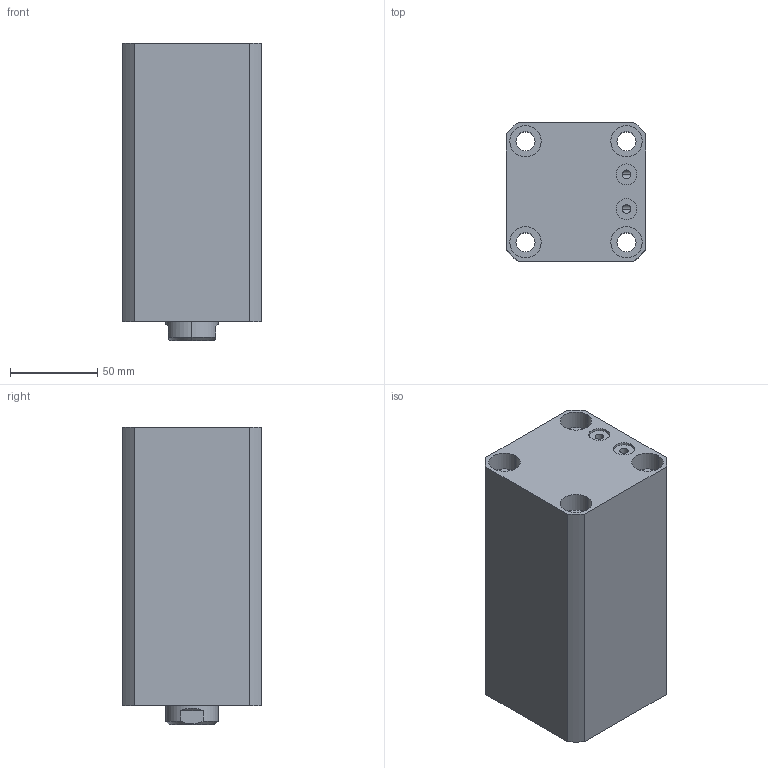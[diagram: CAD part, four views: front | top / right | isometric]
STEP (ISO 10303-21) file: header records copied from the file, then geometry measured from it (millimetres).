
FILE_DESCRIPTION (( 'STEP AP203' ), '1' );
FILE_NAME ('CHTB-SDMB50-100N.STEP', '2018-05-19T08:19:43', ( '' ), ( '' ), 'SwSTEP 2.0', 'SolidWorks 2015', '' );
FILE_SCHEMA (( 'CONFIG_CONTROL_DESIGN' ));
Length unit declared in the file: millimetre
Products named in the file (5): 活塞杆SDMB50-100N; CHTB-SDMB50-100N; 掛极SDMB50-100N; M6; CHTM-SDMA50QG
Assembly tree (5 placements, depth 2):
  CHTB-SDMB50-100N
    掛极SDMB50-100N
    活塞杆SDMB50-100N
    CHTM-SDMA50QG
    M6  x2
Bounding box: 80 x 80 x 170.77 mm (x, y, z)
Volume: 813120 mm3; surface area: 147914.1 mm2
Topology: 5 solids, 5 shells, 263 faces, 693 edges, 458 vertices
Faces by surface type: cylinder 135, plane 55, cone 31, bspline 26, torus 16
Entity records: 13963 total; most frequent: CARTESIAN_POINT 8102, ORIENTED_EDGE 1188, DIRECTION 1016, EDGE_CURVE 594, AXIS2_PLACEMENT_3D 416, VERTEX_POINT 397, EDGE_LOOP 269, ADVANCED_FACE 228
